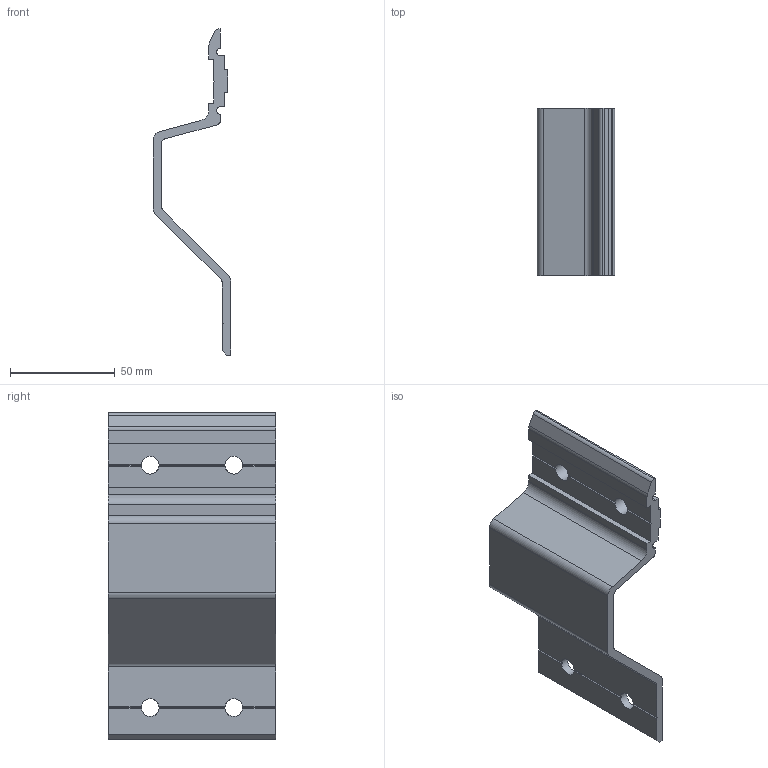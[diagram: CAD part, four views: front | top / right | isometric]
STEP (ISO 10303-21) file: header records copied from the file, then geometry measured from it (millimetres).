
FILE_DESCRIPTION(/* description */ ('BEAM SUPPORT BRACKET FOR PROFILE80x80 FOR PROFILE 830-1000 AND 140-1000'),/* implementation_level */ '2;1');
FILE_NAME(/* name */ '\\carryline.intra\privat\users\mathias\Desktop\Tillfälliga filer\100-1230.stp',/* time_stamp */ '2018-11-20T07:09:49+01:00',/* author */ ('MOB'),/* organization */ ('CARRYLINE'),/* preprocessor_version */ 'ST-DEVELOPER v17',/* originating_system */ 'Autodesk Inventor 2018',/* authorisation */ '');
FILE_SCHEMA (('AUTOMOTIVE_DESIGN { 1 0 10303 214 3 1 1 }'));
Length unit declared in the file: millimetre
Products named in the file (1): 100-1230
Bounding box: 37 x 80 x 156 mm (x, y, z)
Volume: 64134.6 mm3; surface area: 33710 mm2
Topology: 1 solids, 1 shells, 58 faces, 184 edges, 124 vertices
Faces by surface type: plane 42, cylinder 16
Full cylindrical faces by diameter (mm): 8.5 x4
Entity records: 2115 total; most frequent: ORIENTED_EDGE 368, CARTESIAN_POINT 367, DIRECTION 362, EDGE_CURVE 184, LINE 124, VECTOR 124, VERTEX_POINT 124, AXIS2_PLACEMENT_3D 119
